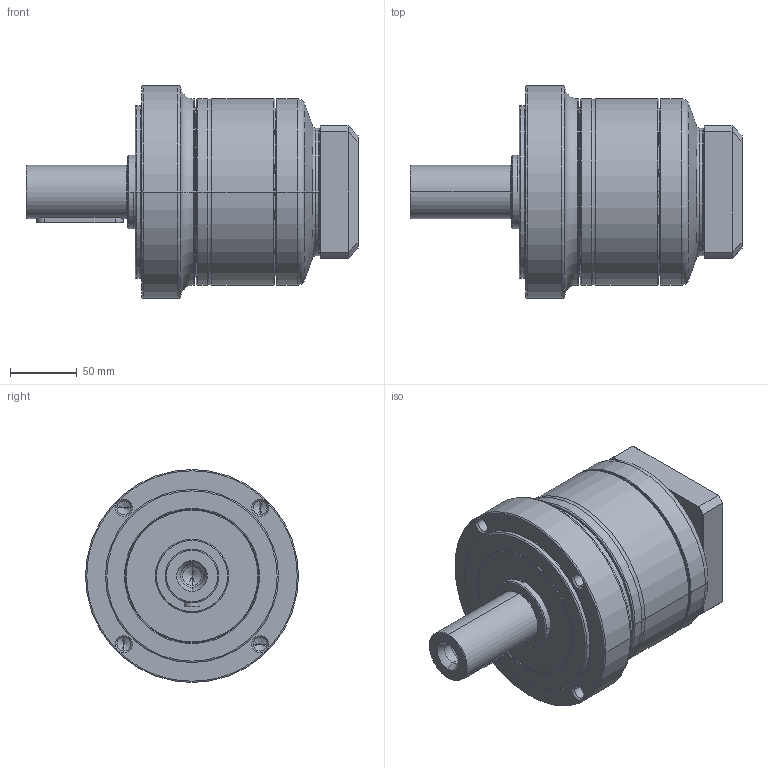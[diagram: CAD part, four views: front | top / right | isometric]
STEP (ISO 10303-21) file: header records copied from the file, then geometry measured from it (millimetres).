
FILE_DESCRIPTION((''),'2;1');
FILE_NAME('PG2-160_1ST_24-P0411500101_ASM','2016-04-12T',('d01943'),(''),'PRO/ENGINEER BY PARAMETRIC TECHNOLOGY CORPORATION, 2008410','PRO/ENGINEER BY PARAMETRIC TECHNOLOGY CORPORATION, 2008410','');
FILE_SCHEMA(('CONFIG_CONTROL_DESIGN'));
Length unit declared in the file: millimetre
Products named in the file (9): P1325510001; P0250500001; P1324500101; P0350501103; P0941501001; P0503500008; P0411500101; P1702500001; PG2-160_1ST_24-P0411500101_ASM
Assembly tree (8 placements, depth 2):
  PG2-160_1ST_24-P0411500101_ASM
    P1325510001
    P0250500001
    P1324500101
    P0350501103
    P0941501001
    P0503500008
    P0411500101
    P1702500001
Bounding box: 249.5 x 160 x 160 mm (x, y, z)
Volume: 2079641.7 mm3; surface area: 293753.9 mm2
Topology: 8 solids, 9 shells, 475 faces, 1046 edges, 601 vertices
Faces by surface type: cone 142, cylinder 140, torus 98, plane 79, bspline 16
Entity records: 17655 total; most frequent: CARTESIAN_POINT 6973, DIRECTION 2434, ORIENTED_EDGE 2024, AXIS2_PLACEMENT_3D 1044, EDGE_CURVE 1012, VERTEX_POINT 601, CIRCLE 568, EDGE_LOOP 539
